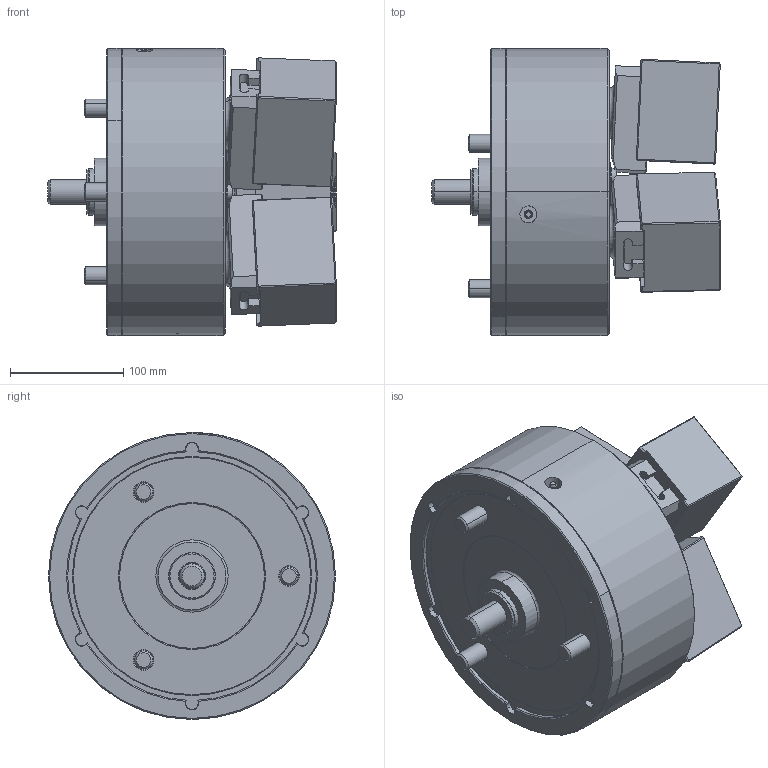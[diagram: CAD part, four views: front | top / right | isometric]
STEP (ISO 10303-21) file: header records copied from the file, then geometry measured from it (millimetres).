
FILE_DESCRIPTION (( 'STEP AP214' ), '1' );
FILE_NAME ('PW-10_UC_ID.STEP', '2019-10-07T05:27:00', ( '' ), ( '' ), 'SwSTEP 2.0', 'SolidWorks 2017', '' );
FILE_SCHEMA (( 'AUTOMOTIVE_DESIGN' ));
Length unit declared in the file: millimetre
Products named in the file (5): 結合_ID; 0030116025; 61P420193; 61P322899; PW-10_UC_ID
Assembly tree (13 placements, depth 2):
  PW-10_UC_ID
    61P322899  x3
    61P420193  x3
    0030116025  x6
    結合_ID
Bounding box: 255.25 x 254 x 254 mm (x, y, z)
Volume: 6672345.4 mm3; surface area: 494473.4 mm2
Topology: 13 solids, 14 shells, 1639 faces, 4075 edges, 2573 vertices
Faces by surface type: plane 828, cone 297, cylinder 261, bspline 189, torus 58, sphere 6
Entity records: 49402 total; most frequent: CARTESIAN_POINT 17955, ORIENTED_EDGE 6838, DIRECTION 5805, EDGE_CURVE 3419, VERTEX_POINT 2182, AXIS2_PLACEMENT_3D 1955, LINE 1895, VECTOR 1895
